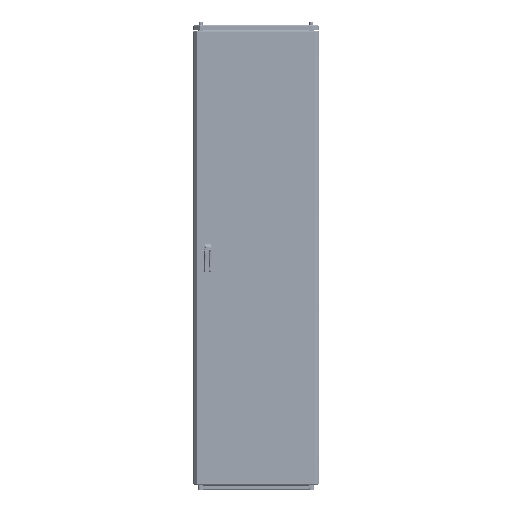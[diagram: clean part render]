
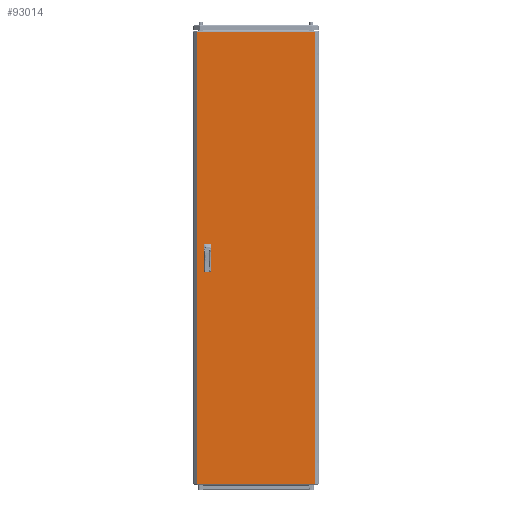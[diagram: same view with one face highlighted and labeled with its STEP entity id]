
A CAD part, top view. The second image highlights one B-rep face of the part: STEP entity #93014.
In plain terms, the highlighted planar face has unit normal (0, 0, 1).
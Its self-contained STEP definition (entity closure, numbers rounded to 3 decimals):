
#1124 = CARTESIAN_POINT ( 'NONE',  ( -242.5, 62.5, 0. ) ) ;
#4615 = LINE ( 'NONE', #47611, #91941 ) ;
#6251 = EDGE_CURVE ( 'NONE', #40301, #103154, #217930, .T. ) ;
#6936 = CARTESIAN_POINT ( 'NONE',  ( -217.5, 12.5, 0. ) ) ;
#13653 = ORIENTED_EDGE ( 'NONE', *, *, #137130, .F. ) ;
#15224 = VERTEX_POINT ( 'NONE', #41027 ) ;
#17238 = VERTEX_POINT ( 'NONE', #233506 ) ;
#20748 = CARTESIAN_POINT ( 'NONE',  ( -242.5, -62.5, 0. ) ) ;
#21037 = DIRECTION ( 'NONE',  ( 0., 1., 0. ) ) ;
#22480 = EDGE_CURVE ( 'NONE', #100988, #40301, #150599, .T. ) ;
#23033 = VERTEX_POINT ( 'NONE', #209966 ) ;
#27678 = LINE ( 'NONE', #87665, #192020 ) ;
#27918 = CARTESIAN_POINT ( 'NONE',  ( -217.5, 62.5, 0. ) ) ;
#28071 = DIRECTION ( 'NONE',  ( 0., 1., 0. ) ) ;
#32124 = VERTEX_POINT ( 'NONE', #160431 ) ;
#37403 = LINE ( 'NONE', #196513, #43303 ) ;
#39121 = FACE_OUTER_BOUND ( 'NONE', #52638, .T. ) ;
#40301 = VERTEX_POINT ( 'NONE', #27918 ) ;
#40809 = VECTOR ( 'NONE', #28071, 1000. ) ;
#41027 = CARTESIAN_POINT ( 'NONE',  ( -242.5, 12.5, 0. ) ) ;
#43303 = VECTOR ( 'NONE', #218630, 1000. ) ;
#44249 = DIRECTION ( 'NONE',  ( 1., 0., 0. ) ) ;
#45508 = CARTESIAN_POINT ( 'NONE',  ( -217.5, -62.5, 0. ) ) ;
#47611 = CARTESIAN_POINT ( 'NONE',  ( -277.875, -1069.5, 0. ) ) ;
#47627 = CARTESIAN_POINT ( 'NONE',  ( -217.5, 12.5, 0. ) ) ;
#51684 = CARTESIAN_POINT ( 'NONE',  ( -242.5, -12.5, 0. ) ) ;
#52638 = EDGE_LOOP ( 'NONE', ( #207017, #90183, #249963, #89187 ) ) ;
#52893 = ORIENTED_EDGE ( 'NONE', *, *, #235675, .F. ) ;
#55846 = DIRECTION ( 'NONE',  ( 0., 1., 0. ) ) ;
#56606 = EDGE_CURVE ( 'NONE', #88665, #23033, #4615, .T. ) ;
#65198 = VERTEX_POINT ( 'NONE', #215669 ) ;
#67420 = EDGE_CURVE ( 'NONE', #23033, #65198, #176068, .T. ) ;
#69617 = DIRECTION ( 'NONE',  ( 1., 0., 0. ) ) ;
#77117 = CARTESIAN_POINT ( 'NONE',  ( -242.5, 62.5, 0. ) ) ;
#77968 = EDGE_CURVE ( 'NONE', #139979, #103839, #98015, .T. ) ;
#78252 = CARTESIAN_POINT ( 'NONE',  ( 0., 0., 0. ) ) ;
#85464 = DIRECTION ( 'NONE',  ( 0., -1., 0. ) ) ;
#87665 = CARTESIAN_POINT ( 'NONE',  ( -242.5, 12.5, 0. ) ) ;
#88665 = VERTEX_POINT ( 'NONE', #229532 ) ;
#89187 = ORIENTED_EDGE ( 'NONE', *, *, #67420, .T. ) ;
#89643 = CARTESIAN_POINT ( 'NONE',  ( -217.5, -12.5, 0. ) ) ;
#90183 = ORIENTED_EDGE ( 'NONE', *, *, #90247, .T. ) ;
#90247 = EDGE_CURVE ( 'NONE', #32124, #88665, #37403, .T. ) ;
#91746 = CARTESIAN_POINT ( 'NONE',  ( -242.5, 12.5, 0. ) ) ;
#91941 = VECTOR ( 'NONE', #85464, 1000. ) ;
#93014 = ADVANCED_FACE ( 'NONE', ( #215218, #136962, #39121 ), #156514, .F. ) ;
#98015 = LINE ( 'NONE', #116283, #211122 ) ;
#100988 = VERTEX_POINT ( 'NONE', #6936 ) ;
#103154 = VERTEX_POINT ( 'NONE', #1124 ) ;
#103839 = VERTEX_POINT ( 'NONE', #89643 ) ;
#109992 = EDGE_CURVE ( 'NONE', #65198, #32124, #254090, .T. ) ;
#111665 = DIRECTION ( 'NONE',  ( -1., 0., 0. ) ) ;
#114697 = ORIENTED_EDGE ( 'NONE', *, *, #6251, .F. ) ;
#116270 = DIRECTION ( 'NONE',  ( -1., 0., 0. ) ) ;
#116283 = CARTESIAN_POINT ( 'NONE',  ( -217.5, -62.5, 0. ) ) ;
#117096 = CARTESIAN_POINT ( 'NONE',  ( 277.875, -1069.5, 0. ) ) ;
#127314 = VECTOR ( 'NONE', #178554, 1000. ) ;
#127778 = VECTOR ( 'NONE', #69617, 1000. ) ;
#130865 = LINE ( 'NONE', #91746, #127778 ) ;
#136962 = FACE_BOUND ( 'NONE', #204726, .T. ) ;
#137130 = EDGE_CURVE ( 'NONE', #17238, #220409, #139401, .T. ) ;
#139401 = LINE ( 'NONE', #20748, #127314 ) ;
#139979 = VERTEX_POINT ( 'NONE', #45508 ) ;
#141159 = EDGE_LOOP ( 'NONE', ( #114697, #256510, #171286, #160419 ) ) ;
#145053 = VECTOR ( 'NONE', #116270, 1000. ) ;
#150599 = LINE ( 'NONE', #47627, #40809 ) ;
#153190 = EDGE_CURVE ( 'NONE', #103839, #17238, #230344, .T. ) ;
#156514 = PLANE ( 'NONE',  #165058 ) ;
#160419 = ORIENTED_EDGE ( 'NONE', *, *, #231103, .F. ) ;
#160431 = CARTESIAN_POINT ( 'NONE',  ( 277.875, 1069.5, 0. ) ) ;
#165058 = AXIS2_PLACEMENT_3D ( 'NONE', #78252, #216494, #219079 ) ;
#171286 = ORIENTED_EDGE ( 'NONE', *, *, #224879, .F. ) ;
#176068 = LINE ( 'NONE', #253106, #228042 ) ;
#178554 = DIRECTION ( 'NONE',  ( 0., -1., 0. ) ) ;
#186808 = DIRECTION ( 'NONE',  ( 0., -1., 0. ) ) ;
#188454 = VECTOR ( 'NONE', #44249, 1000. ) ;
#192020 = VECTOR ( 'NONE', #186808, 1000. ) ;
#196513 = CARTESIAN_POINT ( 'NONE',  ( -277.875, 1069.5, 0. ) ) ;
#200775 = LINE ( 'NONE', #242485, #188454 ) ;
#204726 = EDGE_LOOP ( 'NONE', ( #215486, #218891, #52893, #13653 ) ) ;
#207017 = ORIENTED_EDGE ( 'NONE', *, *, #109992, .T. ) ;
#209966 = CARTESIAN_POINT ( 'NONE',  ( -277.875, -1069.5, 0. ) ) ;
#211122 = VECTOR ( 'NONE', #21037, 1000. ) ;
#215218 = FACE_BOUND ( 'NONE', #141159, .T. ) ;
#215486 = ORIENTED_EDGE ( 'NONE', *, *, #153190, .F. ) ;
#215669 = CARTESIAN_POINT ( 'NONE',  ( 277.875, -1069.5, 0. ) ) ;
#216494 = DIRECTION ( 'NONE',  ( 0., 0., -1. ) ) ;
#217930 = LINE ( 'NONE', #77117, #145053 ) ;
#218630 = DIRECTION ( 'NONE',  ( -1., 0., 0. ) ) ;
#218891 = ORIENTED_EDGE ( 'NONE', *, *, #77968, .F. ) ;
#219079 = DIRECTION ( 'NONE',  ( -1., 0., 0. ) ) ;
#220409 = VERTEX_POINT ( 'NONE', #226162 ) ;
#224879 = EDGE_CURVE ( 'NONE', #15224, #100988, #130865, .T. ) ;
#226162 = CARTESIAN_POINT ( 'NONE',  ( -242.5, -62.5, 0. ) ) ;
#228042 = VECTOR ( 'NONE', #256945, 1000. ) ;
#229532 = CARTESIAN_POINT ( 'NONE',  ( -277.875, 1069.5, 0. ) ) ;
#230344 = LINE ( 'NONE', #51684, #236027 ) ;
#231103 = EDGE_CURVE ( 'NONE', #103154, #15224, #27678, .T. ) ;
#233506 = CARTESIAN_POINT ( 'NONE',  ( -242.5, -12.5, 0. ) ) ;
#235675 = EDGE_CURVE ( 'NONE', #220409, #139979, #200775, .T. ) ;
#236027 = VECTOR ( 'NONE', #111665, 1000. ) ;
#242485 = CARTESIAN_POINT ( 'NONE',  ( -242.5, -62.5, 0. ) ) ;
#245801 = VECTOR ( 'NONE', #55846, 1000. ) ;
#249963 = ORIENTED_EDGE ( 'NONE', *, *, #56606, .T. ) ;
#253106 = CARTESIAN_POINT ( 'NONE',  ( -277.875, -1069.5, 0. ) ) ;
#254090 = LINE ( 'NONE', #117096, #245801 ) ;
#256510 = ORIENTED_EDGE ( 'NONE', *, *, #22480, .F. ) ;
#256945 = DIRECTION ( 'NONE',  ( 1., 0., 0. ) ) ;
